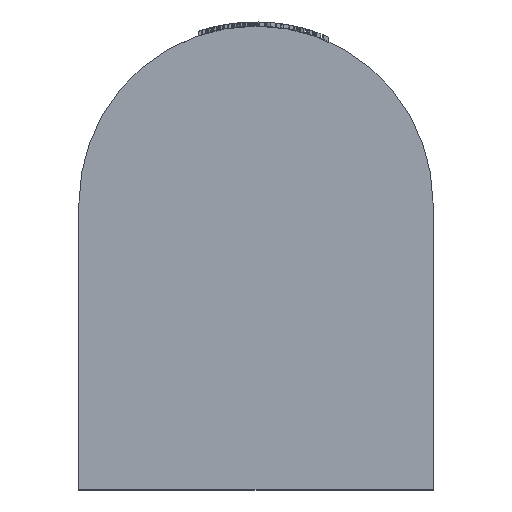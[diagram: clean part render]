
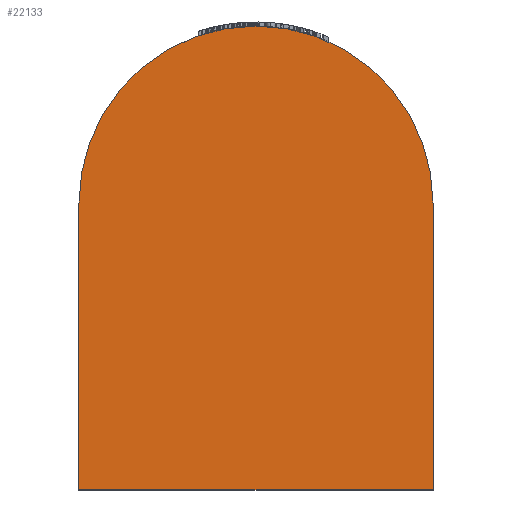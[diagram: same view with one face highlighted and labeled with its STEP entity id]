
A CAD part, top view. The second image highlights one B-rep face of the part: STEP entity #22133.
In plain terms, the highlighted planar face has unit normal (0, 0, 1).
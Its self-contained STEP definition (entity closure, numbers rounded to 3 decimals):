
#2365=PLANE('',#23790);
#3534=FACE_OUTER_BOUND('',#4841,.T.);
#4841=EDGE_LOOP('',(#20126,#20127,#20128,#20129));
#6445=LINE('',#49355,#8032);
#6448=LINE('',#49360,#8035);
#6450=LINE('',#49364,#8037);
#8032=VECTOR('',#28556,10.);
#8035=VECTOR('',#28561,10.);
#8037=VECTOR('',#28565,10.);
#8521=CIRCLE('',#23789,42.);
#10664=VERTEX_POINT('',#49353);
#10665=VERTEX_POINT('',#49354);
#10666=VERTEX_POINT('',#49359);
#10667=VERTEX_POINT('',#49363);
#13853=EDGE_CURVE('',#10664,#10665,#6445,.T.);
#13856=EDGE_CURVE('',#10665,#10666,#6448,.T.);
#13858=EDGE_CURVE('',#10666,#10667,#6450,.T.);
#13860=EDGE_CURVE('',#10667,#10664,#8521,.T.);
#20126=ORIENTED_EDGE('',*,*,#13853,.F.);
#20127=ORIENTED_EDGE('',*,*,#13860,.F.);
#20128=ORIENTED_EDGE('',*,*,#13858,.F.);
#20129=ORIENTED_EDGE('',*,*,#13856,.F.);
#22133=ADVANCED_FACE('',(#3534),#2365,.T.);
#23789=AXIS2_PLACEMENT_3D('',#49367,#28569,#28570);
#23790=AXIS2_PLACEMENT_3D('',#49368,#28571,#28572);
#28556=DIRECTION('',(0.,-1.,0.));
#28561=DIRECTION('',(-1.,0.,0.));
#28565=DIRECTION('',(0.,1.,0.));
#28569=DIRECTION('center_axis',(0.,0.,-1.));
#28570=DIRECTION('ref_axis',(-1.,0.,0.));
#28571=DIRECTION('center_axis',(0.,0.,1.));
#28572=DIRECTION('ref_axis',(1.,0.,0.));
#49353=CARTESIAN_POINT('',(42.,68.,49.));
#49354=CARTESIAN_POINT('',(42.,0.,49.));
#49355=CARTESIAN_POINT('',(42.,68.,49.));
#49359=CARTESIAN_POINT('',(-42.,0.,49.));
#49360=CARTESIAN_POINT('',(42.,0.,49.));
#49363=CARTESIAN_POINT('',(-42.,68.,49.));
#49364=CARTESIAN_POINT('',(-42.,0.,49.));
#49367=CARTESIAN_POINT('Origin',(0.,68.,49.));
#49368=CARTESIAN_POINT('Origin',(0.,47.67,
49.));
